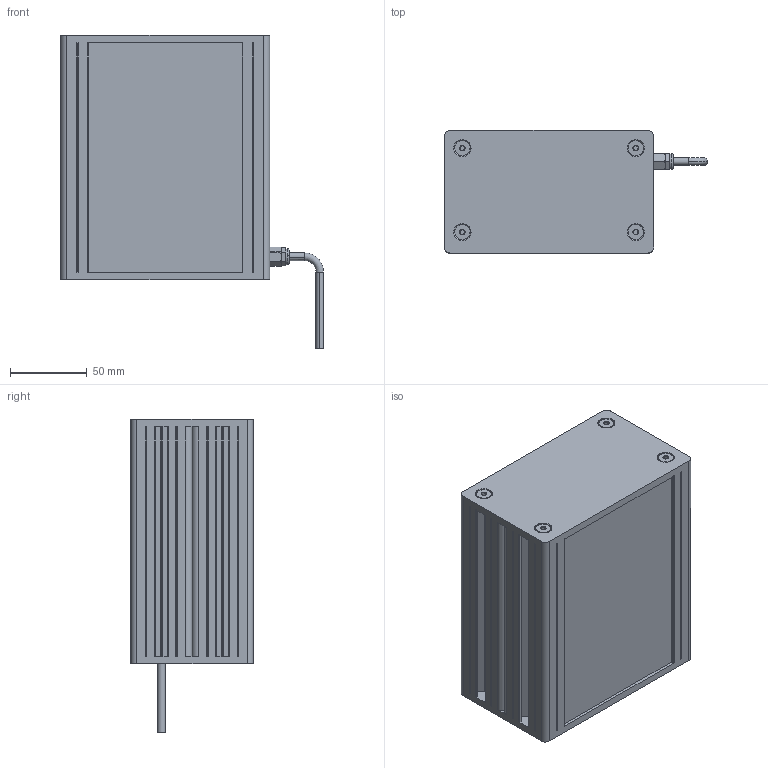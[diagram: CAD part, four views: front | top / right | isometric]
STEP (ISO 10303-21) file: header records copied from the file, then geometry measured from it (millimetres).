
FILE_DESCRIPTION (( 'STEP AP203' ), '1' );
FILE_NAME ('EFFI-MBL-100T-150.STEP', '2021-09-07T08:33:40', ( '' ), ( '' ), 'SwSTEP 2.0', 'SolidWorks 2021', '' );
FILE_SCHEMA (( 'CONFIG_CONTROL_DESIGN' ));
Length unit declared in the file: millimetre
Products named in the file (1): EFFI-MBL-100T-150
Bounding box: 171.65 x 80 x 204.5 mm (x, y, z)
Surface area: 128251.7 mm2 (no closed solid volume)
Topology: 0 solids, 9 shells, 447 faces, 1131 edges, 743 vertices
Faces by surface type: plane 288, cylinder 93, bspline 40, cone 16, torus 10
Entity records: 13781 total; most frequent: CARTESIAN_POINT 3016, ORIENTED_EDGE 2254, DIRECTION 2174, EDGE_CURVE 1131, VERTEX_POINT 743, VECTOR 736, LINE 736, AXIS2_PLACEMENT_3D 719
